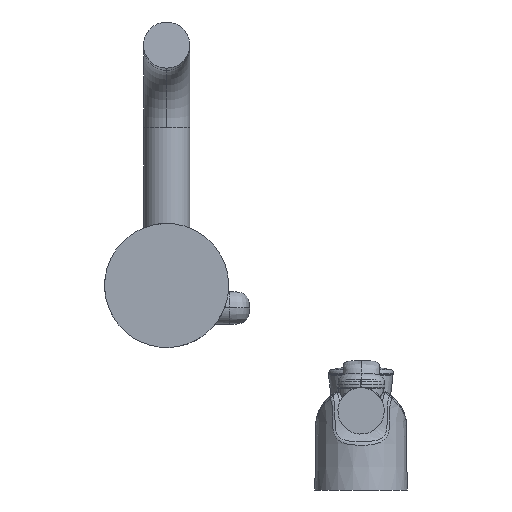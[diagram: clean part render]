
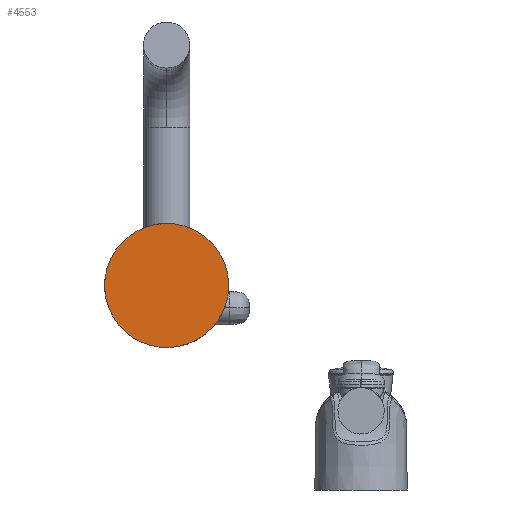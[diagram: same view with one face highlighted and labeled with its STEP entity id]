
A CAD part, front view. The second image highlights one B-rep face of the part: STEP entity #4553.
In plain terms, the highlighted planar face has unit normal (0, -1, 0).
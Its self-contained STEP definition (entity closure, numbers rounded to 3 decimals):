
#63 = CARTESIAN_POINT ( 'NONE',  ( -1.239, 0.2, -30.679 ) ) ;
#693 = FACE_OUTER_BOUND ( 'NONE', #15923, .T. ) ;
#994 = B_SPLINE_CURVE_WITH_KNOTS ( 'NONE', 3,
 ( #14872, #7969, #1164, #9913, #2406, #11194, #3649, #12464, #4923, #13691 ),
 .UNSPECIFIED., .F., .F.,
 ( 4, 1, 1, 1, 1, 2, 4 ),
 ( 0., 0.002, 0.005, 0.007, 0.01, 0.048, 0.096 ),
 .UNSPECIFIED. ) ;
#1164 = CARTESIAN_POINT ( 'NONE',  ( -6.26, 0.2, -30.061 ) ) ;
#1315 = CARTESIAN_POINT ( 'NONE',  ( -3.758, 0.2, -30.439 ) ) ;
#2406 = CARTESIAN_POINT ( 'NONE',  ( -10.995, 0.2, -28.677 ) ) ;
#3649 = CARTESIAN_POINT ( 'NONE',  ( -32.179, 0.2, -9.636 ) ) ;
#4028 = PLANE ( 'NONE',  #5145 ) ;
#4494 = EDGE_CURVE ( 'NONE', #11956, #14233, #994, .T. ) ;
#4553 = ADVANCED_FACE ( 'NONE', ( #693 ), #4028, .F. ) ;
#4923 = CARTESIAN_POINT ( 'NONE',  ( -13.086, 0.2, 32.675 ) ) ;
#5026 = CARTESIAN_POINT ( 'NONE',  ( 32.594, 0.2, 13.167 ) ) ;
#5145 = AXIS2_PLACEMENT_3D ( 'NONE', #7783, #5319, #14073 ) ;
#5319 = DIRECTION ( 'NONE',  ( 0., 1., 0. ) ) ;
#6292 = CARTESIAN_POINT ( 'NONE',  ( 18.063, 0.2, -28.17 ) ) ;
#7178 = CARTESIAN_POINT ( 'NONE',  ( 20.602, 0.2, 28.526 ) ) ;
#7554 = CARTESIAN_POINT ( 'NONE',  ( 1.245, 0.2, -30.681 ) ) ;
#7783 = CARTESIAN_POINT ( 'NONE',  ( 0., 0.2, 0.081 ) ) ;
#7969 = CARTESIAN_POINT ( 'NONE',  ( -4.6, 0.2, -30.335 ) ) ;
#8120 = CARTESIAN_POINT ( 'NONE',  ( 3.758, 0.2, 30.6 ) ) ;
#8801 = CARTESIAN_POINT ( 'NONE',  ( -2.916, 0.2, -30.542 ) ) ;
#9562 = ORIENTED_EDGE ( 'NONE', *, *, #16112, .F. ) ;
#9913 = CARTESIAN_POINT ( 'NONE',  ( -8.671, 0.2, -29.46 ) ) ;
#10753 = ORIENTED_EDGE ( 'NONE', *, *, #4494, .F. ) ;
#11194 = CARTESIAN_POINT ( 'NONE',  ( -24.377, 0.2, -22.944 ) ) ;
#11956 = VERTEX_POINT ( 'NONE', #13037 ) ;
#12464 = CARTESIAN_POINT ( 'NONE',  ( -28.445, 0.2, 20.683 ) ) ;
#13037 = CARTESIAN_POINT ( 'NONE',  ( -3.758, 0.2, -30.439 ) ) ;
#13691 = CARTESIAN_POINT ( 'NONE',  ( 3.758, 0.2, 30.6 ) ) ;
#13785 = CARTESIAN_POINT ( 'NONE',  ( 28.86, 0.2, -17.152 ) ) ;
#14073 = DIRECTION ( 'NONE',  ( 0., 0., -1. ) ) ;
#14233 = VERTEX_POINT ( 'NONE', #8120 ) ;
#14872 = CARTESIAN_POINT ( 'NONE',  ( -3.758, 0.2, -30.439 ) ) ;
#15021 = CARTESIAN_POINT ( 'NONE',  ( 3.69, 0.2, -30.485 ) ) ;
#15137 = B_SPLINE_CURVE_WITH_KNOTS ( 'NONE', 3,
 ( #15873, #7178, #5026, #13785, #6292, #15021, #7554, #63, #8801, #1315 ),
 .UNSPECIFIED., .F., .F.,
 ( 4, 2, 1, 1, 1, 1, 4 ),
 ( 0.096, 0.144, 0.182, 0.185, 0.187, 0.189, 0.192 ),
 .UNSPECIFIED. ) ;
#15873 = CARTESIAN_POINT ( 'NONE',  ( 3.758, 0.2, 30.6 ) ) ;
#15923 = EDGE_LOOP ( 'NONE', ( #10753, #9562 ) ) ;
#16112 = EDGE_CURVE ( 'NONE', #14233, #11956, #15137, .T. ) ;
